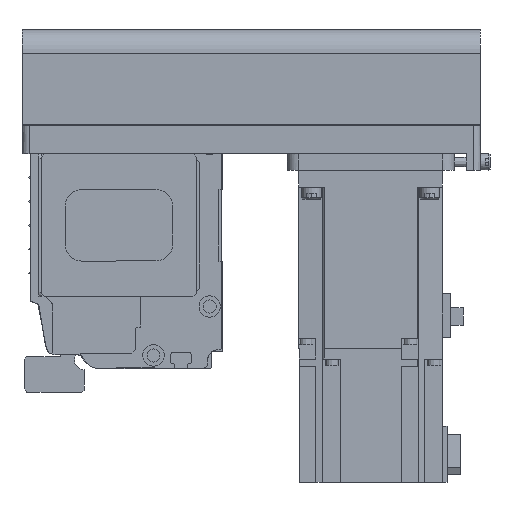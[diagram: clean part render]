
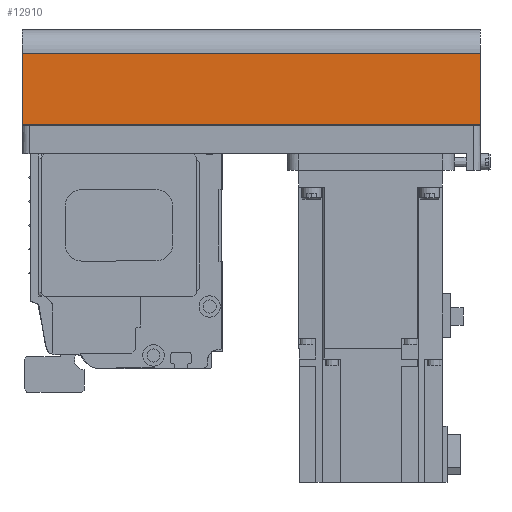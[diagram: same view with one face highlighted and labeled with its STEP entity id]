
A CAD part, left-side view. The second image highlights one B-rep face of the part: STEP entity #12910.
In plain terms, the highlighted planar face has unit normal (-1, 0, 0) as drawn and (0, -1, 0) by its records, which use the part's own axes.
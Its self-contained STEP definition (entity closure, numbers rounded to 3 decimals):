
#2319=ORIENTED_EDGE('',*,*,#5215,.F.);
#2320=ORIENTED_EDGE('',*,*,#5181,.F.);
#2321=ORIENTED_EDGE('',*,*,#5204,.T.);
#2322=ORIENTED_EDGE('',*,*,#5248,.T.);
#5181=EDGE_CURVE('',#6795,#6796,#8095,.T.);
#5204=EDGE_CURVE('',#6795,#6814,#8114,.T.);
#5215=EDGE_CURVE('',#6796,#6822,#8123,.T.);
#5248=EDGE_CURVE('',#6814,#6822,#8136,.T.);
#6795=VERTEX_POINT('',#20185);
#6796=VERTEX_POINT('',#20187);
#6814=VERTEX_POINT('',#20230);
#6822=VERTEX_POINT('',#20254);
#8095=LINE('',#20186,#9323);
#8114=LINE('',#20231,#9342);
#8123=LINE('',#20253,#9351);
#8136=LINE('',#20311,#9364);
#9323=VECTOR('',#16184,1000.);
#9342=VECTOR('',#16217,1000.);
#9351=VECTOR('',#16238,1000.);
#9364=VECTOR('',#16323,1000.);
#10420=EDGE_LOOP('',(#2319,#2320,#2321,#2322));
#11458=FACE_BOUND('',#10420,.T.);
#12327=PLANE('',#13929);
#12910=ADVANCED_FACE('',(#11458),#12327,.T.);
#13929=AXIS2_PLACEMENT_3D('',#20312,#16324,#16325);
#16184=DIRECTION('',(1.,0.,0.));
#16217=DIRECTION('',(0.,0.,-1.));
#16238=DIRECTION('',(0.,0.,-1.));
#16323=DIRECTION('',(1.,0.,0.));
#16324=DIRECTION('',(0.,-1.,0.));
#16325=DIRECTION('',(0.,0.,-1.));
#20185=CARTESIAN_POINT('',(-192.,-40.,-12.1));
#20186=CARTESIAN_POINT('',(-192.,-40.,-12.1));
#20187=CARTESIAN_POINT('',(0.,-40.,-12.1));
#20230=CARTESIAN_POINT('',(-192.,-40.,-42.));
#20231=CARTESIAN_POINT('',(-192.,-40.,-12.1));
#20253=CARTESIAN_POINT('',(0.,-40.,-12.1));
#20254=CARTESIAN_POINT('',(0.,-40.,-42.));
#20311=CARTESIAN_POINT('',(-192.,-40.,-42.));
#20312=CARTESIAN_POINT('',(-192.,-40.,-12.1));
